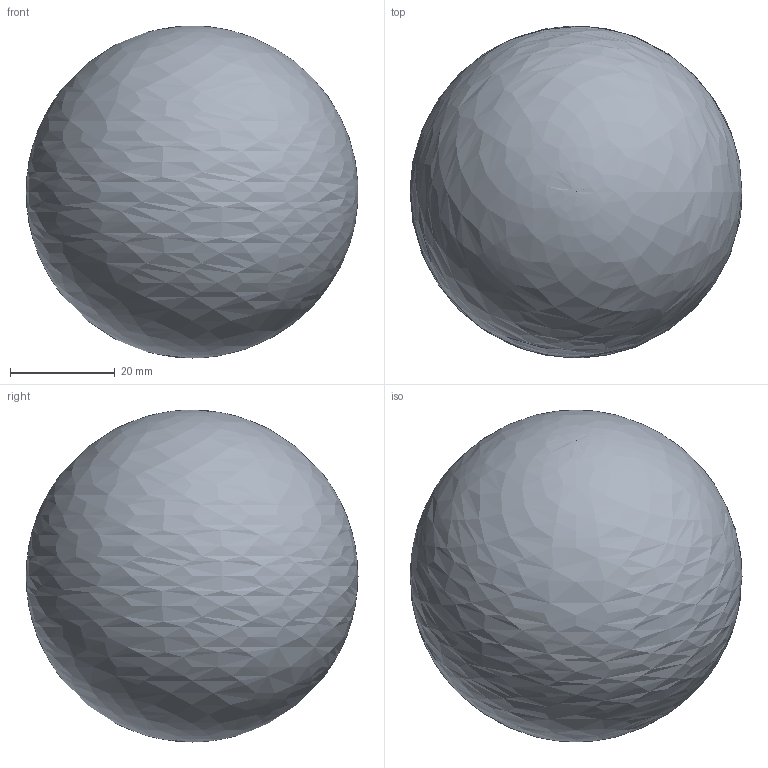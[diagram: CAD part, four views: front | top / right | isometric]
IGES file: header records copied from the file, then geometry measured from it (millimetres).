
Global section: file name: c:\mcimm\draw\project.igs; native system: Bobcad-cam; preprocessor: HarmonyWare IGES v1.5.5; author: c:\mcimm\draw\project.igs; date: 20060904.125559; units: millimetre
Bounding box: 63.44 x 63.5 x 63.5 mm (x, y, z)
Volume: 134016.8 mm3; surface area: 12687.6 mm2
Topology: 1 solids, 1 shells, 1 faces, 2417 edges, 4810 vertices
Faces by surface type: bspline 1
